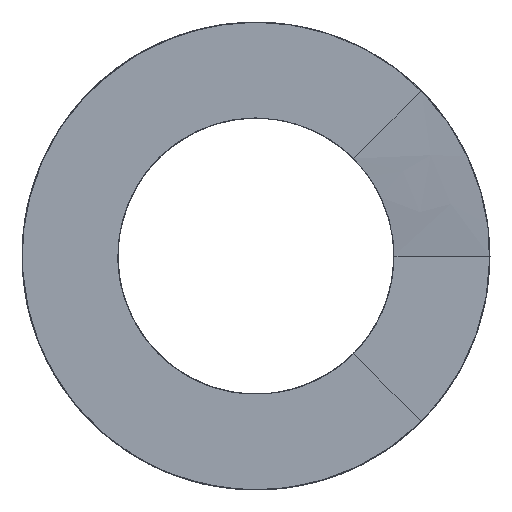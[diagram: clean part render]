
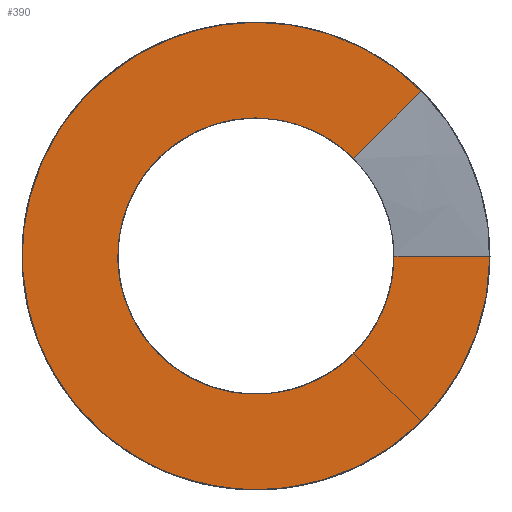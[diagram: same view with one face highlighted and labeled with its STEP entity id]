
A CAD part, front view. The second image highlights one B-rep face of the part: STEP entity #390.
In plain terms, the highlighted planar face has unit normal (0, -1, 0) by its records, which use the part's own axes.
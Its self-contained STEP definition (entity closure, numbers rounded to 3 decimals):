
#36=LINE('',#2239,#44);
#44=VECTOR('',#461,10.);
#74=B_SPLINE_CURVE_WITH_KNOTS('',3,(#1690,#1691,#1692,#1693,#1694,#1695,
#1696,#1697,#1698,#1699,#1700,#1701,#1702,#1703,#1704,#1705,#1706,#1707,
#1708,#1709,#1710,#1711,#1712,#1713,#1714,#1715,#1716,#1717,#1718,#1719,
#1720,#1721,#1722,#1723,#1724,#1725,#1726,#1727,#1728,#1729,#1730,#1731,
#1732,#1733),.UNSPECIFIED.,.F.,.F.,(4,2,2,2,2,2,2,2,2,2,2,2,2,2,2,2,2,2,
2,2,2,4),(-1.984,-1.89,-1.796,-1.658,
-1.535,-1.424,-1.327,-1.248,
-1.208,-1.166,-1.153,-1.147,
-1.139,-1.125,-0.984,-0.844,
-0.703,-0.563,-0.422,-0.281,
-0.141,0.),.UNSPECIFIED.);
#83=B_SPLINE_CURVE_WITH_KNOTS('',3,(#2133,#2134,#2135,#2136,#2137,#2138,
#2139,#2140,#2141,#2142,#2143,#2144,#2145,#2146,#2147,#2148,#2149,#2150,
#2151,#2152,#2153,#2154,#2155,#2156,#2157,#2158,#2159,#2160,#2161,#2162,
#2163,#2164,#2165,#2166,#2167,#2168,#2169,#2170,#2171,#2172,#2173,#2174),
 .UNSPECIFIED.,.F.,.F.,(4,2,2,2,2,2,2,2,2,2,2,2,2,2,2,2,2,2,2,2,4),(-3.363,
-3.136,-2.908,-2.67,-2.432,
-2.194,-1.955,-1.717,-1.479,
-1.437,-1.425,-1.414,-1.401,
-1.384,-1.252,-1.052,-0.892,
-0.718,-0.477,-0.238,0.),
 .UNSPECIFIED.);
#89=B_SPLINE_CURVE_WITH_KNOTS('',3,(#2233,#2234,#2235,#2236,#2237,#2238),
 .UNSPECIFIED.,.F.,.F.,(4,2,4),(-0.25,-0.125,0.),.UNSPECIFIED.);
#114=FACE_OUTER_BOUND('',#140,.T.);
#140=EDGE_LOOP('',(#335,#336,#337,#338));
#171=VERTEX_POINT('',#1425);
#178=VERTEX_POINT('',#1685);
#181=VERTEX_POINT('',#1830);
#186=VERTEX_POINT('',#2132);
#224=EDGE_CURVE('',#178,#171,#74,.T.);
#235=EDGE_CURVE('',#181,#186,#83,.T.);
#242=EDGE_CURVE('',#186,#178,#89,.T.);
#243=EDGE_CURVE('',#171,#181,#36,.T.);
#335=ORIENTED_EDGE('',*,*,#242,.F.);
#336=ORIENTED_EDGE('',*,*,#235,.F.);
#337=ORIENTED_EDGE('',*,*,#243,.F.);
#338=ORIENTED_EDGE('',*,*,#224,.F.);
#372=PLANE('',#429);
#390=ADVANCED_FACE('',(#114),#372,.F.);
#429=AXIS2_PLACEMENT_3D('',#2232,#459,#460);
#459=DIRECTION('center_axis',(0.,1.,0.));
#460=DIRECTION('ref_axis',(0.,0.,1.));
#461=DIRECTION('',(1.,0.,0.));
#1425=CARTESIAN_POINT('',(3.6,0.,0.));
#1685=CARTESIAN_POINT('',(2.546,0.,2.546));
#1690=CARTESIAN_POINT('Ctrl Pts',(2.546,0.,
2.546));
#1691=CARTESIAN_POINT('Ctrl Pts',(2.324,0.,
2.767));
#1692=CARTESIAN_POINT('Ctrl Pts',(2.075,0.,
2.958));
#1693=CARTESIAN_POINT('Ctrl Pts',(1.533,0.,
3.272));
#1694=CARTESIAN_POINT('Ctrl Pts',(1.243,0.,
3.393));
#1695=CARTESIAN_POINT('Ctrl Pts',(0.495,0.,
3.596));
#1696=CARTESIAN_POINT('Ctrl Pts',(0.03,0.,
3.629));
#1697=CARTESIAN_POINT('Ctrl Pts',(-0.836,0.,
3.526));
#1698=CARTESIAN_POINT('Ctrl Pts',(-1.233,0.,
3.407));
#1699=CARTESIAN_POINT('Ctrl Pts',(-1.931,0.,
3.061));
#1700=CARTESIAN_POINT('Ctrl Pts',(-2.233,0.,
2.848));
#1701=CARTESIAN_POINT('Ctrl Pts',(-2.73,0.,
2.369));
#1702=CARTESIAN_POINT('Ctrl Pts',(-2.931,0.,
2.115));
#1703=CARTESIAN_POINT('Ctrl Pts',(-3.232,0.,
1.609));
#1704=CARTESIAN_POINT('Ctrl Pts',(-3.342,0.,
1.365));
#1705=CARTESIAN_POINT('Ctrl Pts',(-3.464,0.,
0.987));
#1706=CARTESIAN_POINT('Ctrl Pts',(-3.498,0.,
0.861));
#1707=CARTESIAN_POINT('Ctrl Pts',(-3.553,0.,
0.594));
#1708=CARTESIAN_POINT('Ctrl Pts',(-3.574,0.,
0.454));
#1709=CARTESIAN_POINT('Ctrl Pts',(-3.59,0.,
0.272));
#1710=CARTESIAN_POINT('Ctrl Pts',(-3.593,0.,
0.23));
#1711=CARTESIAN_POINT('Ctrl Pts',(-3.596,0.,
0.167));
#1712=CARTESIAN_POINT('Ctrl Pts',(-3.597,0.,
0.145));
#1713=CARTESIAN_POINT('Ctrl Pts',(-3.599,0.,
0.097));
#1714=CARTESIAN_POINT('Ctrl Pts',(-3.599,0.,
0.071));
#1715=CARTESIAN_POINT('Ctrl Pts',(-3.6,0.,
-0.001));
#1716=CARTESIAN_POINT('Ctrl Pts',(-3.6,0.,-0.048));
#1717=CARTESIAN_POINT('Ctrl Pts',(-3.586,0.,-0.563));
#1718=CARTESIAN_POINT('Ctrl Pts',(-3.483,0.,-1.025));
#1719=CARTESIAN_POINT('Ctrl Pts',(-3.104,0.,-1.883));
#1720=CARTESIAN_POINT('Ctrl Pts',(-2.833,0.,-2.27));
#1721=CARTESIAN_POINT('Ctrl Pts',(-2.157,0.,-2.92));
#1722=CARTESIAN_POINT('Ctrl Pts',(-1.759,0.,-3.176));
#1723=CARTESIAN_POINT('Ctrl Pts',(-0.887,0.,-3.52));
#1724=CARTESIAN_POINT('Ctrl Pts',(-0.421,0.,-3.606));
#1725=CARTESIAN_POINT('Ctrl Pts',(0.516,0.,-3.594));
#1726=CARTESIAN_POINT('Ctrl Pts',(0.979,0.,-3.496));
#1727=CARTESIAN_POINT('Ctrl Pts',(1.842,0.,-3.129));
#1728=CARTESIAN_POINT('Ctrl Pts',(2.233,0.,-2.862));
#1729=CARTESIAN_POINT('Ctrl Pts',(2.892,0.,-2.195));
#1730=CARTESIAN_POINT('Ctrl Pts',(3.152,0.,-1.8));
#1731=CARTESIAN_POINT('Ctrl Pts',(3.508,0.,-0.933));
#1732=CARTESIAN_POINT('Ctrl Pts',(3.6,0.,-0.469));
#1733=CARTESIAN_POINT('Ctrl Pts',(3.6,0.,0.));
#1830=CARTESIAN_POINT('',(6.1,0.,0.));
#2132=CARTESIAN_POINT('',(4.313,0.,4.313));
#2133=CARTESIAN_POINT('Ctrl Pts',(6.1,0.,0.));
#2134=CARTESIAN_POINT('Ctrl Pts',(6.1,0.,-0.757));
#2135=CARTESIAN_POINT('Ctrl Pts',(5.959,0.,-1.508));
#2136=CARTESIAN_POINT('Ctrl Pts',(5.409,0.,-2.919));
#2137=CARTESIAN_POINT('Ctrl Pts',(5.006,0.,-3.567));
#2138=CARTESIAN_POINT('Ctrl Pts',(3.956,0.,-4.71));
#2139=CARTESIAN_POINT('Ctrl Pts',(3.31,0.,-5.185));
#2140=CARTESIAN_POINT('Ctrl Pts',(1.872,0.,-5.86));
#2141=CARTESIAN_POINT('Ctrl Pts',(1.094,0.,-6.053));
#2142=CARTESIAN_POINT('Ctrl Pts',(-0.493,0.,-6.132));
#2143=CARTESIAN_POINT('Ctrl Pts',(-1.286,0.,-6.016));
#2144=CARTESIAN_POINT('Ctrl Pts',(-2.784,0.,-5.486));
#2145=CARTESIAN_POINT('Ctrl Pts',(-3.474,0.,-5.077));
#2146=CARTESIAN_POINT('Ctrl Pts',(-4.658,0.,-4.018));
#2147=CARTESIAN_POINT('Ctrl Pts',(-5.141,0.,-3.378));
#2148=CARTESIAN_POINT('Ctrl Pts',(-5.835,0.,-1.949));
#2149=CARTESIAN_POINT('Ctrl Pts',(-6.039,0.,-1.173));
#2150=CARTESIAN_POINT('Ctrl Pts',(-6.097,0.,-0.241));
#2151=CARTESIAN_POINT('Ctrl Pts',(-6.101,0.,
-0.101));
#2152=CARTESIAN_POINT('Ctrl Pts',(-6.1,0.,
0.078));
#2153=CARTESIAN_POINT('Ctrl Pts',(-6.099,0.,
0.118));
#2154=CARTESIAN_POINT('Ctrl Pts',(-6.097,0.,
0.193));
#2155=CARTESIAN_POINT('Ctrl Pts',(-6.096,0.,
0.228));
#2156=CARTESIAN_POINT('Ctrl Pts',(-6.092,0.,
0.307));
#2157=CARTESIAN_POINT('Ctrl Pts',(-6.09,0.,
0.352));
#2158=CARTESIAN_POINT('Ctrl Pts',(-6.083,0.,
0.452));
#2159=CARTESIAN_POINT('Ctrl Pts',(-6.079,0.,
0.508));
#2160=CARTESIAN_POINT('Ctrl Pts',(-6.033,0.,
1.002));
#2161=CARTESIAN_POINT('Ctrl Pts',(-5.945,0.,
1.434));
#2162=CARTESIAN_POINT('Ctrl Pts',(-5.609,0.,
2.489));
#2163=CARTESIAN_POINT('Ctrl Pts',(-5.303,0.,
3.088));
#2164=CARTESIAN_POINT('Ctrl Pts',(-4.59,0.,
4.053));
#2165=CARTESIAN_POINT('Ctrl Pts',(-4.219,0.,
4.437));
#2166=CARTESIAN_POINT('Ctrl Pts',(-3.348,0.,
5.132));
#2167=CARTESIAN_POINT('Ctrl Pts',(-2.843,0.,
5.428));
#2168=CARTESIAN_POINT('Ctrl Pts',(-1.56,0.,
5.952));
#2169=CARTESIAN_POINT('Ctrl Pts',(-0.764,0.,6.105));
#2170=CARTESIAN_POINT('Ctrl Pts',(0.834,0.,6.095));
#2171=CARTESIAN_POINT('Ctrl Pts',(1.62,0.,
5.934));
#2172=CARTESIAN_POINT('Ctrl Pts',(3.086,0.,
5.322));
#2173=CARTESIAN_POINT('Ctrl Pts',(3.752,0.,
4.875));
#2174=CARTESIAN_POINT('Ctrl Pts',(4.313,0.,
4.313));
#2232=CARTESIAN_POINT('Origin',(0.,0.,0.));
#2233=CARTESIAN_POINT('Ctrl Pts',(4.313,0.,
4.313));
#2234=CARTESIAN_POINT('Ctrl Pts',(4.019,0.,
4.019));
#2235=CARTESIAN_POINT('Ctrl Pts',(3.724,0.,
3.724));
#2236=CARTESIAN_POINT('Ctrl Pts',(3.135,0.,
3.135));
#2237=CARTESIAN_POINT('Ctrl Pts',(2.84,0.,
2.84));
#2238=CARTESIAN_POINT('Ctrl Pts',(2.546,0.,
2.546));
#2239=CARTESIAN_POINT('',(2.425,0.,0.));
